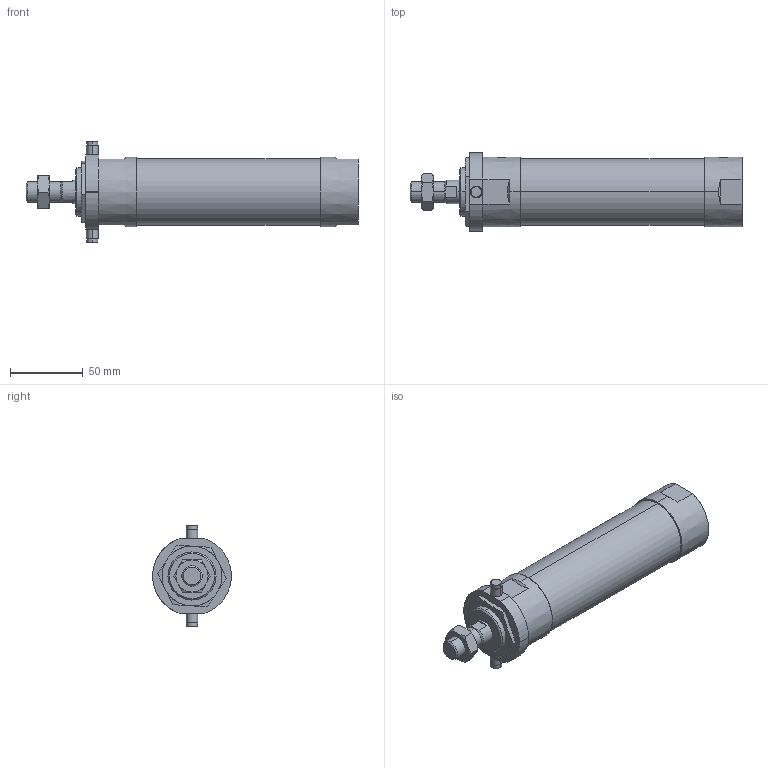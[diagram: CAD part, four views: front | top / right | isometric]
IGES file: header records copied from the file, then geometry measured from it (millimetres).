
Start section: SolidWorks IGES file using analytic representation for surfaces
Global section: file name: C:\Users\Toshiba\Desktop\JGND2-40-75-T.IGS; native system: SolidWorks 2014; preprocessor: SolidWorks 2014; author: Toshiba; date: 160804.110717; units: millimetre
Bounding box: 228 x 54 x 70 mm (x, y, z)
Surface area: 43513.2 mm2 (no closed solid volume)
Topology: 0 solids, 0 shells, 116 faces, 2138 edges, 2134 vertices
Faces by surface type: bspline 62, revolution 54
